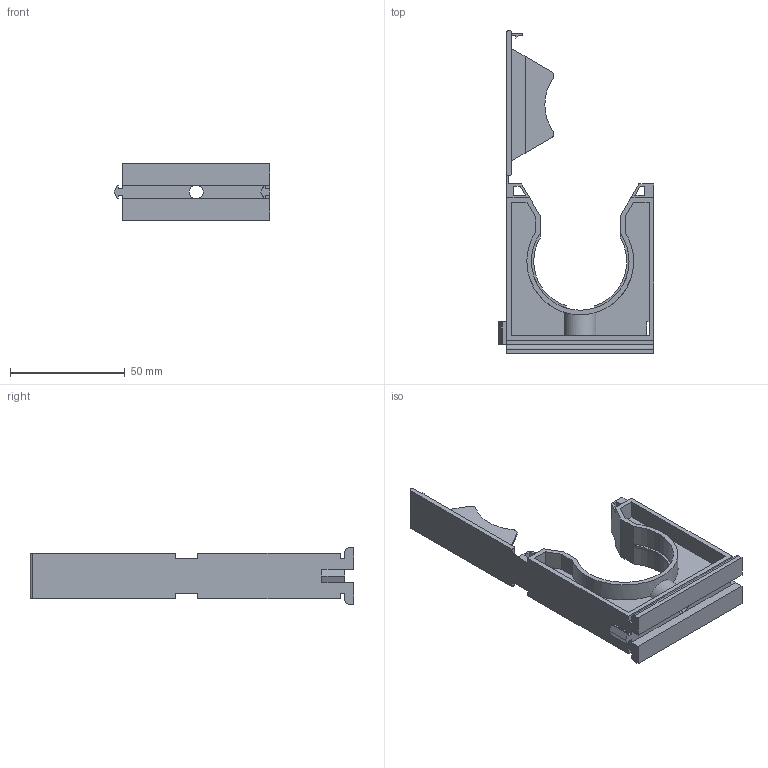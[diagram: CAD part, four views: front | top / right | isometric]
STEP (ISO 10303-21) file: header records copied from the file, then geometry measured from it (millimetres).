
FILE_DESCRIPTION (( 'STEP AP203' ), '1' );
FILE_NAME ('WQSC-AD42.5.STEP', '2013-03-20T04:37:47', ( 'User' ), ( 'Microsoft' ), 'SwSTEP 2.0', 'SolidWorks 2010', '' );
FILE_SCHEMA (( 'CONFIG_CONTROL_DESIGN' ));
Length unit declared in the file: millimetre
Products named in the file (1): WQSC-AD42.5
Bounding box: 67.7 x 140.96 x 24.5 mm (x, y, z)
Volume: 30350.9 mm3; surface area: 24713.5 mm2
Topology: 1 solids, 1 shells, 149 faces, 436 edges, 288 vertices
Faces by surface type: plane 115, cylinder 34
Entity records: 5133 total; most frequent: CARTESIAN_POINT 1028, ORIENTED_EDGE 872, DIRECTION 798, EDGE_CURVE 436, VECTOR 362, LINE 362, VERTEX_POINT 288, AXIS2_PLACEMENT_3D 218
